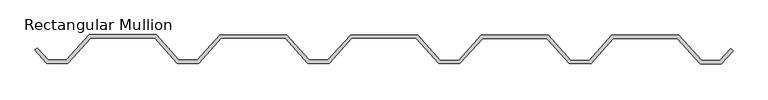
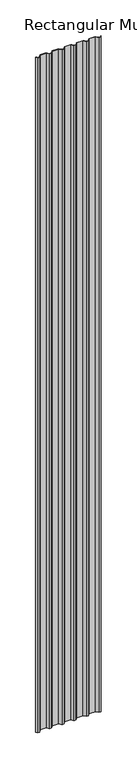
"""IFC4 building model written with IfcOpenShell, lengths in millimetres: member geometry, Rectangular Mullion : Telha Metálica - Trapezoidal."""

from ifc_helpers import new_model, si_unit, frame, origin, place, context, project, spatial, polyline, outline, extrude, source, transform, mapped, element, save


def rectangular_mullion_e1a64eea(model_context):
    return source(origin(), model_context, "Body", "SweptSolid", [
        extrude(outline(polyline([(440.066155, 75.6159987), (344.0661915, 75.6997745), (310.0330432, 37.7294595), (278.0330554, 37.7573848), (244.0662296, 75.7870409), (148.0662661, 75.8708167), (114.0331178, 37.9005018), (82.03313, 37.928427), (48.0663042, 75.9580832), (-47.9336592, 76.041859), (-81.9668075, 38.071544), (-113.9667953, 38.0994693), (-147.9336211, 76.1291254), (-243.9335846, 76.2129012), (-277.9667329, 38.2425863), (-309.9667207, 38.2705115), (-343.9335465, 76.3001677), (-439.93351, 76.3839434), (-473.9666583, 38.4136285), (-505.9666461, 38.4415538), (-523.4905169, 58.0614849), (-519.9464424, 61.5993792), (-503.7267316, 43.439601), (-476.1978461, 43.4155775), (-442.1646978, 81.3858924), (-341.693632, 81.2982149), (-307.7268062, 43.2685587), (-280.1979207, 43.2445352), (-246.1647724, 81.2148502), (-145.6937067, 81.1271726), (-111.7268809, 43.0975165), (-84.1979953, 43.073493), (-50.164847, 81.0438079), (50.3062187, 80.9561304), (84.2730445, 42.9264742), (111.80193, 42.9024508), (145.8350783, 80.8727657), (246.3061441, 80.7850881), (280.2729699, 42.755432), (307.8018554, 42.7314085), (341.8350037, 80.7017235), (442.3060694, 80.6140459), (476.2728952, 42.5843898), (503.8017808, 42.5603663), (520.072301, 60.7131616), (523.6101953, 57.1690871), (506.0329686, 37.5584173), (474.0329808, 37.5863426), (440.066155, 75.6159987)])), frame((0.0, 0.0, -11384.7186201), z_axis=(0.0, 0.0, 1.0), x_axis=(1.0, 0.0, 0.0)), (0.0, 0.0, 1.0), 11384.7186201),
    ])


if __name__ == "__main__":
    model = new_model("IFC4")
    model_context = context("Model", 3, world=origin())
    ifc_project = project(units=[si_unit("LENGTHUNIT", "METRE", prefix="MILLI")], contexts=[model_context])
    site = spatial("IfcSite", under=ifc_project)
    building = spatial("IfcBuilding", under=site)
    placement = place(None, origin())
    rectangular_mullion_shape = rectangular_mullion_e1a64eea(model_context)
    element("IfcMember", 1, ObjectType="Rectangular Mullion : Telha Metálica - Trapezoidal", at=placement, inside=building, context=model_context, shape_type="MappedRepresentation", body=[
        mapped(rectangular_mullion_shape, transform((0.0, 0.0, 0.0), x_axis=(1.0, 0.0, 0.0), y_axis=(0.0, 1.0, 0.0), z_axis=(0.0, 0.0, 1.0))),
    ])
    save(model, "model.ifc")
